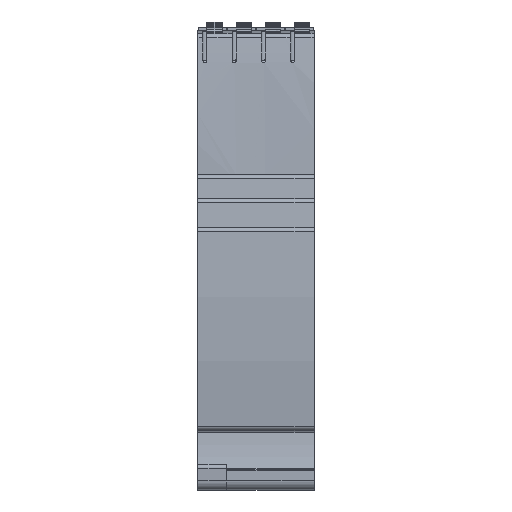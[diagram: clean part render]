
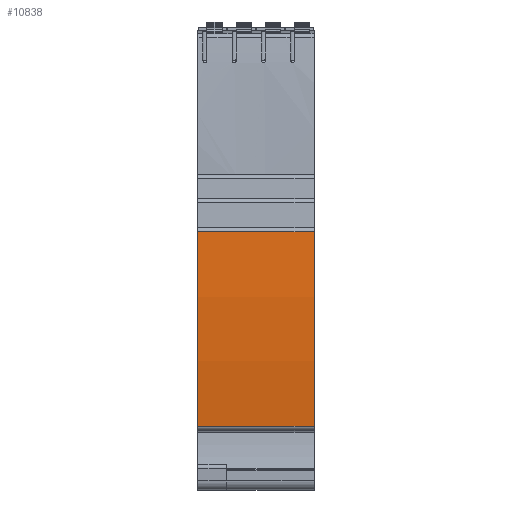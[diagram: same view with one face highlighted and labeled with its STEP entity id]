
A CAD part, front view. The second image highlights one B-rep face of the part: STEP entity #10838.
In plain terms, the highlighted cylindrical face has radius 202 mm (diameter 404 mm), a partial arc.
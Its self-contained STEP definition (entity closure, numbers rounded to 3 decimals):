
#933=AXIS2_PLACEMENT_3D('Circle Axis2P3D',#931,#932,$) ;
#4510=AXIS2_PLACEMENT_3D('Circle Axis2P3D',#4508,#4509,$) ;
#10825=AXIS2_PLACEMENT_3D('Cylinder Axis2P3D',#10822,#10823,#10824) ;
#928=CARTESIAN_POINT('Vertex',(24.25,0.609,53.828)) ;
#931=CARTESIAN_POINT('Axis2P3D Location',(24.25,202.,38.15)) ;
#935=CARTESIAN_POINT('Vertex',(24.25,1.531,13.327)) ;
#4505=CARTESIAN_POINT('Vertex',(0.,1.531,13.327)) ;
#4508=CARTESIAN_POINT('Axis2P3D Location',(0.,202.,38.15)) ;
#4512=CARTESIAN_POINT('Vertex',(0.,0.609,53.828)) ;
#10809=CARTESIAN_POINT('Line Origine',(8.04,0.609,53.828)) ;
#10822=CARTESIAN_POINT('Axis2P3D Location',(20.85,202.,38.15)) ;
#10827=CARTESIAN_POINT('Line Origine',(20.85,1.531,13.327)) ;
#932=DIRECTION('Axis2P3D Direction',(1.,0.,0.)) ;
#4509=DIRECTION('Axis2P3D Direction',(1.,0.,0.)) ;
#10810=DIRECTION('Vector Direction',(1.,0.,0.)) ;
#10823=DIRECTION('Axis2P3D Direction',(1.,0.,0.)) ;
#10824=DIRECTION('Axis2P3D XDirection',(0.,-0.997,0.082)) ;
#10828=DIRECTION('Vector Direction',(1.,0.,0.)) ;
#10811=VECTOR('Line Direction',#10810,1.) ;
#10829=VECTOR('Line Direction',#10828,1.) ;
#10833=ORIENTED_EDGE('',*,*,#10831,.F.) ;
#10834=ORIENTED_EDGE('',*,*,#937,.F.) ;
#10835=ORIENTED_EDGE('',*,*,#10813,.T.) ;
#10836=ORIENTED_EDGE('',*,*,#4514,.T.) ;
#10838=ADVANCED_FACE('KLEMME',(#10837),#10826,.T.) ;
#934=CIRCLE('generated circle',#933,202.) ;
#4511=CIRCLE('generated circle',#4510,202.) ;
#10826=CYLINDRICAL_SURFACE('generated cylinder',#10825,202.) ;
#937=EDGE_CURVE('',#929,#936,#934,.T.) ;
#4514=EDGE_CURVE('',#4513,#4506,#4511,.T.) ;
#10813=EDGE_CURVE('',#929,#4513,#10812,.F.) ;
#10831=EDGE_CURVE('',#936,#4506,#10830,.F.) ;
#10832=EDGE_LOOP('',(#10833,#10834,#10835,#10836)) ;
#10837=FACE_OUTER_BOUND('',#10832,.T.) ;
#10812=LINE('Line',#10809,#10811) ;
#10830=LINE('Line',#10827,#10829) ;
#929=VERTEX_POINT('',#928) ;
#936=VERTEX_POINT('',#935) ;
#4506=VERTEX_POINT('',#4505) ;
#4513=VERTEX_POINT('',#4512) ;
